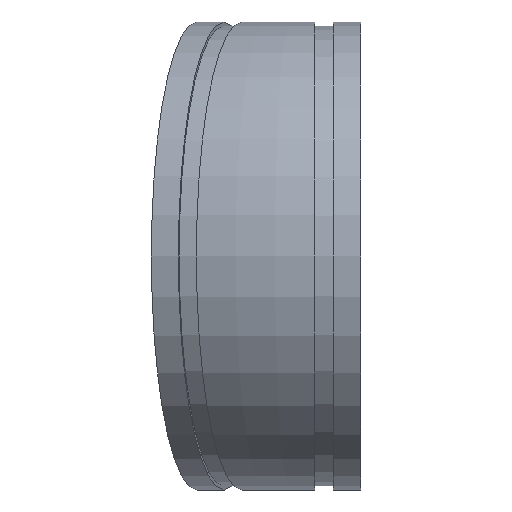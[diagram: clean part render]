
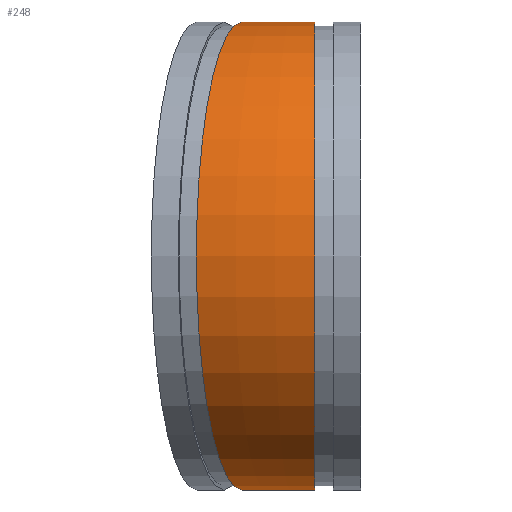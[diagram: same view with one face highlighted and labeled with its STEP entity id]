
A CAD part, left-side view. The second image highlights one B-rep face of the part: STEP entity #248.
In plain terms, the highlighted toroidal (fillet/blend) face has major radius 257.89 mm and minor radius 161.925 mm.
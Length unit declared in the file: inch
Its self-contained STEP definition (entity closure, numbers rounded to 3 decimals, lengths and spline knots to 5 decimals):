
#15=TOROIDAL_SURFACE('',#303,10.15317,6.375);
#47=FACE_OUTER_BOUND('',#65,.T.);
#65=EDGE_LOOP('',(#190,#191,#192,#193,#194,#195));
#79=CIRCLE('',#283,6.375);
#80=CIRCLE('',#284,6.375);
#86=CIRCLE('',#293,6.375);
#87=CIRCLE('',#294,6.375);
#95=CIRCLE('',#304,3.77817);
#105=VERTEX_POINT('',#418);
#106=VERTEX_POINT('',#419);
#112=VERTEX_POINT('',#436);
#113=VERTEX_POINT('',#437);
#130=EDGE_CURVE('',#105,#106,#79,.T.);
#131=EDGE_CURVE('',#106,#105,#80,.T.);
#138=EDGE_CURVE('',#112,#113,#86,.T.);
#139=EDGE_CURVE('',#113,#112,#87,.T.);
#147=EDGE_CURVE('',#113,#106,#95,.T.);
#190=ORIENTED_EDGE('',*,*,#138,.T.);
#191=ORIENTED_EDGE('',*,*,#147,.T.);
#192=ORIENTED_EDGE('',*,*,#131,.T.);
#193=ORIENTED_EDGE('',*,*,#130,.T.);
#194=ORIENTED_EDGE('',*,*,#147,.F.);
#195=ORIENTED_EDGE('',*,*,#139,.T.);
#248=ADVANCED_FACE('',(#47),#15,.T.);
#283=AXIS2_PLACEMENT_3D('',#420,#334,#335);
#284=AXIS2_PLACEMENT_3D('',#421,#336,#337);
#293=AXIS2_PLACEMENT_3D('',#438,#355,#356);
#294=AXIS2_PLACEMENT_3D('',#439,#357,#358);
#303=AXIS2_PLACEMENT_3D('',#454,#375,#376);
#304=AXIS2_PLACEMENT_3D('',#455,#377,#378);
#334=DIRECTION('center_axis',(0.,1.,0.));
#335=DIRECTION('ref_axis',(1.,0.,0.));
#336=DIRECTION('center_axis',(0.,1.,0.));
#337=DIRECTION('ref_axis',(1.,0.,0.));
#355=DIRECTION('center_axis',(-0.195,-0.981,0.));
#356=DIRECTION('ref_axis',(0.981,-0.195,0.));
#357=DIRECTION('center_axis',(-0.195,-0.981,0.));
#358=DIRECTION('ref_axis',(0.981,-0.195,0.));
#375=DIRECTION('center_axis',(0.,0.,-1.));
#376=DIRECTION('ref_axis',(-1.,0.,0.));
#377=DIRECTION('center_axis',(0.,0.,1.));
#378=DIRECTION('ref_axis',(-1.,0.,0.));
#418=CARTESIAN_POINT('',(0.,1.25,6.375));
#419=CARTESIAN_POINT('',(6.375,1.25,0.));
#420=CARTESIAN_POINT('Origin',(0.,1.25,0.));
#421=CARTESIAN_POINT('Origin',(0.,1.25,0.));
#436=CARTESIAN_POINT('',(0.19509,3.23079,6.375));
#437=CARTESIAN_POINT('',(6.4476,1.98708,0.));
#438=CARTESIAN_POINT('Origin',(0.19509,3.23079,0.));
#439=CARTESIAN_POINT('Origin',(0.19509,3.23079,0.));
#454=CARTESIAN_POINT('Origin',(10.15317,1.25,0.));
#455=CARTESIAN_POINT('Origin',(10.15317,1.25,0.));
